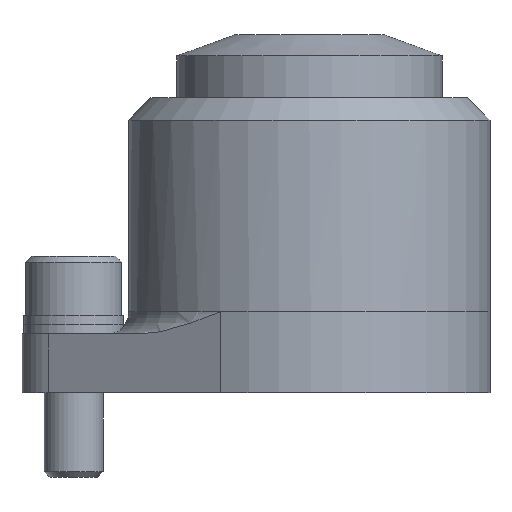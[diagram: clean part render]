
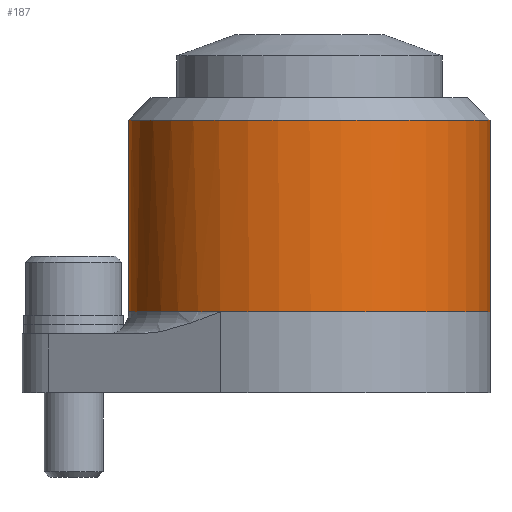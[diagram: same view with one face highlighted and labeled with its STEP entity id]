
A CAD part, front view. The second image highlights one B-rep face of the part: STEP entity #187.
In plain terms, the highlighted cylindrical face has radius 24.5 mm (diameter 49 mm), a partial arc.
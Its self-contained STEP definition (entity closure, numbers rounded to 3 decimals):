
#187=ADVANCED_FACE('',(#298),#262,.T.);
#262=CYLINDRICAL_SURFACE('',#1342,24.5);
#298=FACE_OUTER_BOUND('',#362,.T.);
#362=EDGE_LOOP('',(#563,#564,#565,#566,#567));
#448=CIRCLE('',#1317,24.5);
#466=CIRCLE('',#1340,24.5);
#467=CIRCLE('',#1341,24.5);
#563=ORIENTED_EDGE('',*,*,#983,.T.);
#564=ORIENTED_EDGE('',*,*,#1008,.T.);
#565=ORIENTED_EDGE('',*,*,#1009,.F.);
#566=ORIENTED_EDGE('',*,*,#1006,.F.);
#567=ORIENTED_EDGE('',*,*,#1010,.T.);
#873=VERTEX_POINT('',#1885);
#874=VERTEX_POINT('',#1887);
#892=VERTEX_POINT('',#1931);
#893=VERTEX_POINT('',#1933);
#894=VERTEX_POINT('',#1935);
#983=EDGE_CURVE('',#874,#873,#448,.T.);
#1006=EDGE_CURVE('',#892,#893,#1158,.T.);
#1008=EDGE_CURVE('',#873,#894,#1159,.T.);
#1009=EDGE_CURVE('',#893,#894,#466,.T.);
#1010=EDGE_CURVE('',#892,#874,#467,.T.);
#1158=LINE('',#1932,#1240);
#1159=LINE('',#1936,#1241);
#1240=VECTOR('',#1529,1.);
#1241=VECTOR('',#1532,1.);
#1317=AXIS2_PLACEMENT_3D('',#1886,#1481,#1482);
#1340=AXIS2_PLACEMENT_3D('',#1938,#1535,#1536);
#1341=AXIS2_PLACEMENT_3D('',#1939,#1537,#1538);
#1342=AXIS2_PLACEMENT_3D('',#1940,#1539,#1540);
#1481=DIRECTION('',(0.,0.,1.));
#1482=DIRECTION('',(-1.,0.,0.));
#1529=DIRECTION('',(0.,0.,1.));
#1532=DIRECTION('',(0.,0.,1.));
#1535=DIRECTION('',(0.,0.,1.));
#1536=DIRECTION('',(0.,1.,0.));
#1537=DIRECTION('',(0.,0.,1.));
#1538=DIRECTION('',(0.,1.,0.));
#1539=DIRECTION('',(0.,0.,1.));
#1540=DIRECTION('',(0.,-1.,0.));
#1885=CARTESIAN_POINT('',(24.5,0.,11.));
#1886=CARTESIAN_POINT('',(0.,0.,11.));
#1887=CARTESIAN_POINT('',(-12.066,-21.323,11.));
#1931=CARTESIAN_POINT('',(-24.5,0.,11.));
#1932=CARTESIAN_POINT('',(-24.5,0.,37.));
#1933=CARTESIAN_POINT('',(-24.5,0.,37.));
#1935=CARTESIAN_POINT('',(24.5,0.,37.));
#1936=CARTESIAN_POINT('',(24.5,0.,37.));
#1938=CARTESIAN_POINT('',(0.,0.,37.));
#1939=CARTESIAN_POINT('',(0.,0.,11.));
#1940=CARTESIAN_POINT('',(0.,0.,0.));
